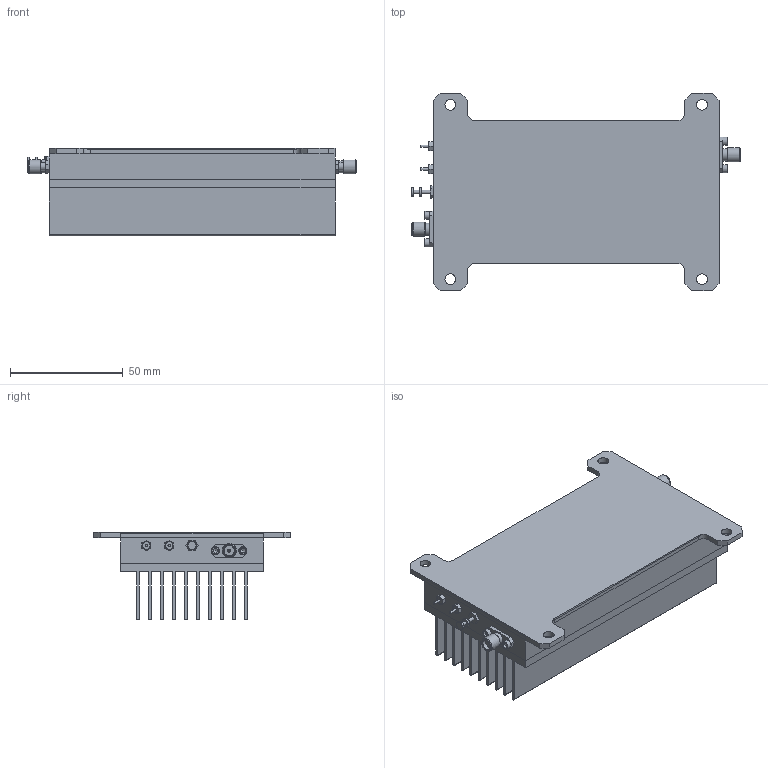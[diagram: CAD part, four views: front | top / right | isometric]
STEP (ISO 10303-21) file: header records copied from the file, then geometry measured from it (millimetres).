
FILE_DESCRIPTION((''),'2;1');
FILE_NAME('\\SERPENTOR\Engineering\ENG\Models\TAxxxx\TA1158 5W 2300-2500 MHz Class A\Inventor\142-HS.stp','2015-08-24T15:57:43',('dcampbell'),(''),'Autodesk Inventor 2013','Autodesk Inventor 2013','');
FILE_SCHEMA(('AUTOMOTIVE_DESIGN { 1 0 10303 214 1 1 1 1 }'));
Length unit declared in the file: inch
Products named in the file (9): 142; 410-003; 410-003_1; 102-001; 470-004; Hexagon Socket Head Cap Screw - Inch No. 2 - 56 UNC - 3/16; T52158241; HS_CVR
Assembly tree (12 placements, depth 2):
  142
    142
    410-003
    410-003_1
    102-001  x2
    470-004
    Hexagon Socket Head Cap Screw - Inch No. 2 - 56 UNC - 3/16  x4
    T52158241
    HS_CVR
Bounding box: 146.18 x 87.63 x 38.96 mm (x, y, z)
Volume: 191234.7 mm3; surface area: 113601 mm2
Topology: 12 solids, 12 shells, 286 faces, 641 edges, 424 vertices
Faces by surface type: plane 185, cylinder 79, cone 14, torus 8
Full cylindrical faces by diameter (mm): 0.737 x2, 1.016 x4, 1.245 x2, 1.27 x5, 1.295 x2, 1.651 x2, 1.905 x1, 2.159 x4, 2.184 x4, 2.286 x2, 2.54 x4, 2.591 x4, 2.743 x3, 3.175 x4, 3.429 x2, 3.556 x4, 3.683 x2, 4.597 x2, 4.775 x4, 5.08 x2, 5.486 x4, 6.35 x2
Entity records: 6223 total; most frequent: DIRECTION 1046, CARTESIAN_POINT 1008, ORIENTED_EDGE 862, EDGE_CURVE 431, AXIS2_PLACEMENT_3D 381, EDGE_LOOP 348, VERTEX_POINT 325, VECTOR 284
